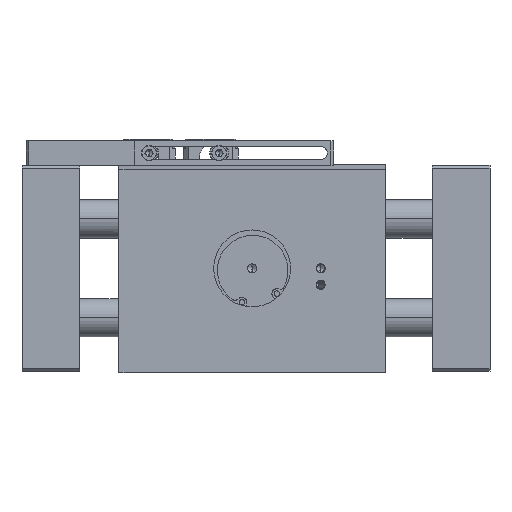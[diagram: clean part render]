
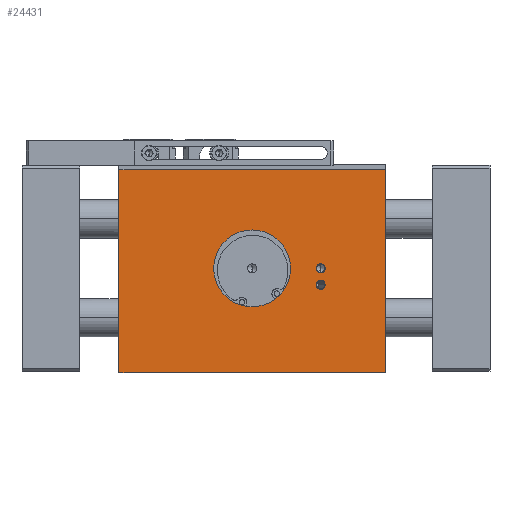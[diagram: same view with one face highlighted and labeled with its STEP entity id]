
A CAD part, front view. The second image highlights one B-rep face of the part: STEP entity #24431.
In plain terms, the highlighted planar face has unit normal (0, -1, 0).
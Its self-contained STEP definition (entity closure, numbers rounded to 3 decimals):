
#5368 = AXIS2_PLACEMENT_3D ( 'NONE', #74297, #74298, #74299 ) ;
#5373 = AXIS2_PLACEMENT_3D ( 'NONE', #74112, #74134, #74136 ) ;
#5378 = AXIS2_PLACEMENT_3D ( 'NONE', #74188, #74191, #74192 ) ;
#5666 = VERTEX_POINT ( 'NONE', #53849 ) ;
#5821 = VERTEX_POINT ( 'NONE', #55281 ) ;
#5909 = VERTEX_POINT ( 'NONE', #83496 ) ;
#6182 = VERTEX_POINT ( 'NONE', #83865 ) ;
#6664 = VERTEX_POINT ( 'NONE', #82762 ) ;
#6762 = VERTEX_POINT ( 'NONE', #83382 ) ;
#7580 = AXIS2_PLACEMENT_3D ( 'NONE', #29701, #29704, #29705 ) ;
#18067 = EDGE_CURVE ( 'NONE', #27374, #30344, #68552, .T. ) ;
#18121 = EDGE_CURVE ( 'NONE', #27374, #29970, #69907, .T. ) ;
#18175 = EDGE_CURVE ( 'NONE', #30344, #29892, #70005, .T. ) ;
#18186 = EDGE_CURVE ( 'NONE', #29970, #29892, #70020, .T. ) ;
#18193 = EDGE_CURVE ( 'NONE', #6664, #6762, #70047, .T. ) ;
#18195 = EDGE_CURVE ( 'NONE', #5909, #5821, #70050, .T. ) ;
#18197 = EDGE_CURVE ( 'NONE', #5666, #6182, #70054, .T. ) ;
#21421 = EDGE_CURVE ( 'NONE', #5821, #5909, #74720, .T. ) ;
#21433 = EDGE_CURVE ( 'NONE', #6182, #5666, #74737, .T. ) ;
#21454 = EDGE_CURVE ( 'NONE', #6762, #6664, #74764, .T. ) ;
#24431 = ADVANCED_FACE ( 'NONE', ( #30688, #30683, #30690, #30692 ), #29698, .T. ) ;
#27374 = VERTEX_POINT ( 'NONE', #32912 ) ;
#29698 = PLANE ( 'NONE',  #7580 ) ;
#29701 = CARTESIAN_POINT ( 'NONE',  ( -48.5, -31.5, -38. ) ) ;
#29704 = DIRECTION ( 'NONE',  ( 0., -1., 0. ) ) ;
#29705 = DIRECTION ( 'NONE',  ( 0., 0., -1. ) ) ;
#29892 = VERTEX_POINT ( 'NONE', #38483 ) ;
#29970 = VERTEX_POINT ( 'NONE', #38528 ) ;
#30344 = VERTEX_POINT ( 'NONE', #38727 ) ;
#30683 = FACE_BOUND ( 'NONE', #38821, .T. ) ;
#30688 = FACE_BOUND ( 'NONE', #38931, .T. ) ;
#30690 = FACE_BOUND ( 'NONE', #38143, .T. ) ;
#30692 = FACE_OUTER_BOUND ( 'NONE', #38552, .T. ) ;
#32912 = CARTESIAN_POINT ( 'NONE',  ( -48.5, -31.5, -38. ) ) ;
#33663 = AXIS2_PLACEMENT_3D ( 'NONE', #71109, #71110, #71111 ) ;
#33665 = AXIS2_PLACEMENT_3D ( 'NONE', #71096, #71107, #71108 ) ;
#33666 = AXIS2_PLACEMENT_3D ( 'NONE', #71112, #71113, #71114 ) ;
#38143 = EDGE_LOOP ( 'NONE', ( #79106, #79350 ) ) ;
#38483 = CARTESIAN_POINT ( 'NONE',  ( 48.5, -31.5, 36. ) ) ;
#38528 = CARTESIAN_POINT ( 'NONE',  ( -48.5, -31.5, 36. ) ) ;
#38552 = EDGE_LOOP ( 'NONE', ( #79355, #79158, #79370, #79270 ) ) ;
#38727 = CARTESIAN_POINT ( 'NONE',  ( 48.5, -31.5, -38. ) ) ;
#38821 = EDGE_LOOP ( 'NONE', ( #79437, #79132 ) ) ;
#38931 = EDGE_LOOP ( 'NONE', ( #79193, #79229 ) ) ;
#53849 = CARTESIAN_POINT ( 'NONE',  ( 25., -31.5, -7.65 ) ) ;
#55281 = CARTESIAN_POINT ( 'NONE',  ( 25., -31.5, 1.65 ) ) ;
#68552 = LINE ( 'NONE', #69794, #68554 ) ;
#68554 = VECTOR ( 'NONE', #69795, 1000. ) ;
#69794 = CARTESIAN_POINT ( 'NONE',  ( -48.5, -31.5, -38. ) ) ;
#69795 = DIRECTION ( 'NONE',  ( 1., 0., 0. ) ) ;
#69868 = CARTESIAN_POINT ( 'NONE',  ( -48.5, -31.5, -38. ) ) ;
#69907 = LINE ( 'NONE', #69868, #69911 ) ;
#69911 = VECTOR ( 'NONE', #71000, 1000. ) ;
#70005 = LINE ( 'NONE', #71080, #70019 ) ;
#70019 = VECTOR ( 'NONE', #71084, 1000. ) ;
#70020 = LINE ( 'NONE', #71099, #70024 ) ;
#70024 = VECTOR ( 'NONE', #71100, 1000. ) ;
#70047 = CIRCLE ( 'NONE', #33665, 14. ) ;
#70050 = CIRCLE ( 'NONE', #33663, 1.65 ) ;
#70054 = CIRCLE ( 'NONE', #33666, 1.65 ) ;
#71000 = DIRECTION ( 'NONE',  ( 0., 0., 1. ) ) ;
#71080 = CARTESIAN_POINT ( 'NONE',  ( 48.5, -31.5, -38. ) ) ;
#71084 = DIRECTION ( 'NONE',  ( 0., 0., 1. ) ) ;
#71096 = CARTESIAN_POINT ( 'NONE',  ( 0., -31.5, 0. ) ) ;
#71099 = CARTESIAN_POINT ( 'NONE',  ( -48.5, -31.5, 36. ) ) ;
#71100 = DIRECTION ( 'NONE',  ( 1., 0., 0. ) ) ;
#71107 = DIRECTION ( 'NONE',  ( 0., -1., 0. ) ) ;
#71108 = DIRECTION ( 'NONE',  ( 0., 0., -1. ) ) ;
#71109 = CARTESIAN_POINT ( 'NONE',  ( 25., -31.5, 0. ) ) ;
#71110 = DIRECTION ( 'NONE',  ( 0., -1., 0. ) ) ;
#71111 = DIRECTION ( 'NONE',  ( 0., 0., -1. ) ) ;
#71112 = CARTESIAN_POINT ( 'NONE',  ( 25., -31.5, -6. ) ) ;
#71113 = DIRECTION ( 'NONE',  ( 0., -1., 0. ) ) ;
#71114 = DIRECTION ( 'NONE',  ( 0., 0., -1. ) ) ;
#74112 = CARTESIAN_POINT ( 'NONE',  ( 25., -31.5, 0. ) ) ;
#74134 = DIRECTION ( 'NONE',  ( 0., -1., 0. ) ) ;
#74136 = DIRECTION ( 'NONE',  ( 0., 0., -1. ) ) ;
#74188 = CARTESIAN_POINT ( 'NONE',  ( 25., -31.5, -6. ) ) ;
#74191 = DIRECTION ( 'NONE',  ( 0., -1., 0. ) ) ;
#74192 = DIRECTION ( 'NONE',  ( 0., 0., -1. ) ) ;
#74297 = CARTESIAN_POINT ( 'NONE',  ( 0., -31.5, 0. ) ) ;
#74298 = DIRECTION ( 'NONE',  ( 0., -1., 0. ) ) ;
#74299 = DIRECTION ( 'NONE',  ( 0., 0., -1. ) ) ;
#74720 = CIRCLE ( 'NONE', #5373, 1.65 ) ;
#74737 = CIRCLE ( 'NONE', #5378, 1.65 ) ;
#74764 = CIRCLE ( 'NONE', #5368, 14. ) ;
#79106 = ORIENTED_EDGE ( 'NONE', *, *, #18193, .F. ) ;
#79132 = ORIENTED_EDGE ( 'NONE', *, *, #21433, .F. ) ;
#79158 = ORIENTED_EDGE ( 'NONE', *, *, #18121, .F. ) ;
#79193 = ORIENTED_EDGE ( 'NONE', *, *, #18195, .F. ) ;
#79229 = ORIENTED_EDGE ( 'NONE', *, *, #21421, .F. ) ;
#79270 = ORIENTED_EDGE ( 'NONE', *, *, #18175, .T. ) ;
#79350 = ORIENTED_EDGE ( 'NONE', *, *, #21454, .F. ) ;
#79355 = ORIENTED_EDGE ( 'NONE', *, *, #18186, .F. ) ;
#79370 = ORIENTED_EDGE ( 'NONE', *, *, #18067, .T. ) ;
#79437 = ORIENTED_EDGE ( 'NONE', *, *, #18197, .F. ) ;
#82762 = CARTESIAN_POINT ( 'NONE',  ( 0., -31.5, -14. ) ) ;
#83382 = CARTESIAN_POINT ( 'NONE',  ( 0., -31.5, 14. ) ) ;
#83496 = CARTESIAN_POINT ( 'NONE',  ( 25., -31.5, -1.65 ) ) ;
#83865 = CARTESIAN_POINT ( 'NONE',  ( 25., -31.5, -4.35 ) ) ;
